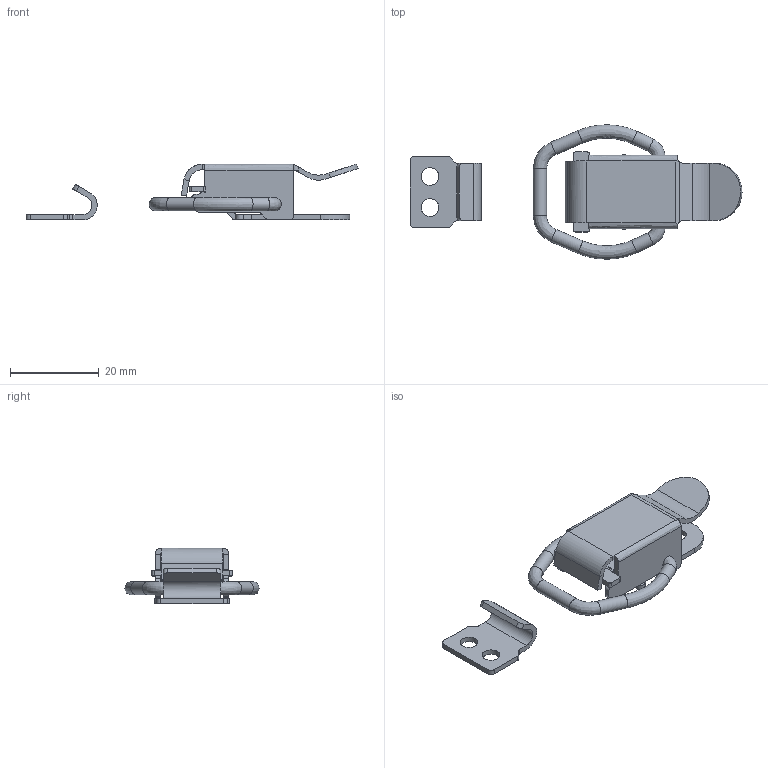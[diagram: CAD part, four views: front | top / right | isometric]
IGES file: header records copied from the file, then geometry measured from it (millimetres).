
Global section: file name: DR_C-M3-1; native system: Autodesk Inventor 2015; preprocessor: unknown; author: Administrator; date: 20170906.131206; units: millimetre
Bounding box: 74.66 x 30.2 x 12.53 mm (x, y, z)
Volume: 2855.2 mm3; surface area: 5021.6 mm2
Topology: 4 solids, 4 shells, 134 faces, 366 edges, 238 vertices
Faces by surface type: bspline 134
